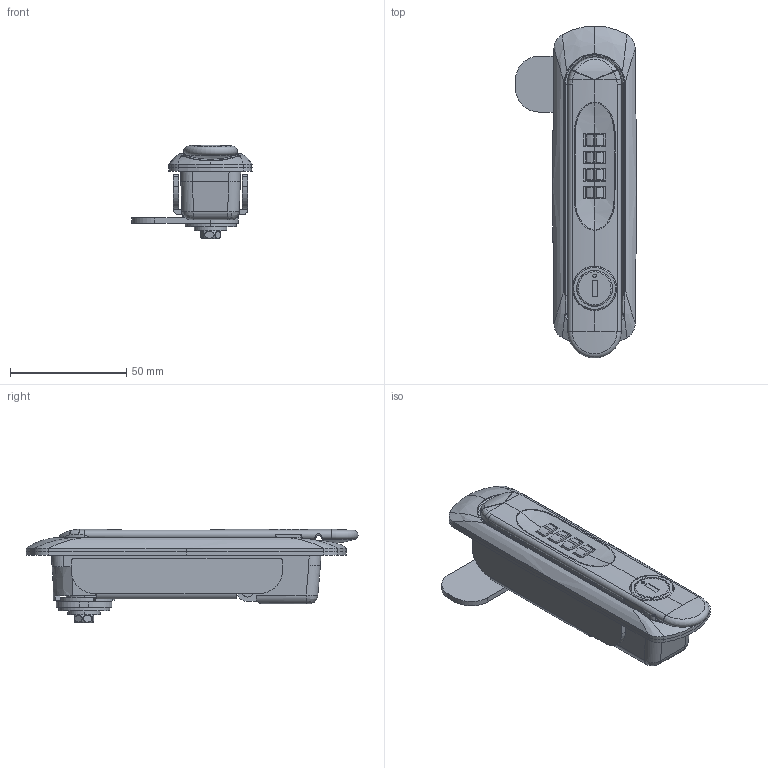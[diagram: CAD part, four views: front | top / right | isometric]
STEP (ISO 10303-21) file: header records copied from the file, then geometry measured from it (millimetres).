
FILE_DESCRIPTION (( 'STEP AP203' ), '1' );
FILE_NAME ('A-464-DL-1.STEP', '2015-07-14T04:53:56', ( '' ), ( '' ), 'SwSTEP 2.0', 'SolidWorks 2012', '' );
FILE_SCHEMA (( 'CONFIG_CONTROL_DESIGN' ));
Length unit declared in the file: millimetre
Products named in the file (23): A-464-DL-1; A-464DL-1アクセスレバーピン_; A-464-1パッキン_公; A-464DL止め金ユニット; A-464DL十字穴付き六角ボルトM5_M5×10; A-464DL暯儚僢僔儍乕M5暲娵_M5-冇14亊冇5亊t1.6; A-464DL-1僗僩僢僷乕; A-464DL-1止め金; A-464DL-1角穴付座金; A-464DL付属部品; 廫帤寠晅嶮偹偠M4_M4亊8; A-464DL-1取付け板; A-464DLƒnƒ“ƒhƒ‹ƒ†ƒjƒbƒg; TAK70_公開用_TAK70-4-2; PA-180; 廫帤寠晅嶮偹偠M3_M3亊4; A-464DLƒ_ƒCƒ„ƒ‹ƒ†ƒjƒbƒg; A-464-1ダイヤル軸; A-464DL-1僟僀儎儖_; A-464-1軸ピン; A-464DL-1ハンドル; A-464-1回転軸; A-464DL-1本体
Assembly tree (30 placements, depth 4):
  A-464-DL-1
    A-464DL-1本体
    A-464DLƒnƒ“ƒhƒ‹ƒ†ƒjƒbƒg
      A-464-1回転軸
      A-464DL-1ハンドル
      A-464-1軸ピン
      A-464DLƒ_ƒCƒ„ƒ‹ƒ†ƒjƒbƒg
        A-464DL-1僟僀儎儖_  x4
        A-464-1ダイヤル軸
      廫帤寠晅嶮偹偠M3_M3亊4  x4
      PA-180
      TAK70_公開用_TAK70-4-2
    A-464DL付属部品
      A-464DL-1取付け板
      廫帤寠晅嶮偹偠M4_M4亊8  x3
    A-464DL止め金ユニット
      A-464DL-1角穴付座金
      A-464DL-1止め金
      A-464DL-1僗僩僢僷乕
      A-464DL暯儚僢僔儍乕M5暲娵_M5-冇14亊冇5亊t1.6
      A-464DL十字穴付き六角ボルトM5_M5×10
    A-464-1パッキン_公
    A-464DL-1アクセスレバーピン_
Bounding box: 52 x 143 x 40.3 mm (x, y, z)
Volume: 71944.4 mm3; surface area: 62540.2 mm2
Topology: 26 solids, 26 shells, 1457 faces, 3733 edges, 2332 vertices
Faces by surface type: plane 663, cylinder 491, cone 188, bspline 80, torus 21, sphere 14
Entity records: 34392 total; most frequent: CARTESIAN_POINT 10015, ORIENTED_EDGE 4682, DIRECTION 4452, EDGE_CURVE 2341, AXIS2_PLACEMENT_3D 1642, VERTEX_POINT 1486, VECTOR 1168, LINE 1168
